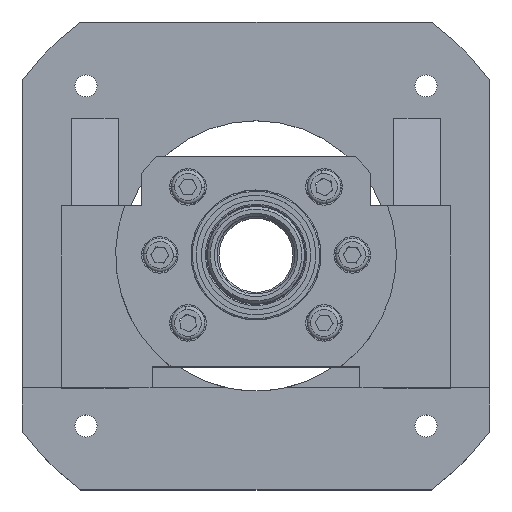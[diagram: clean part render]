
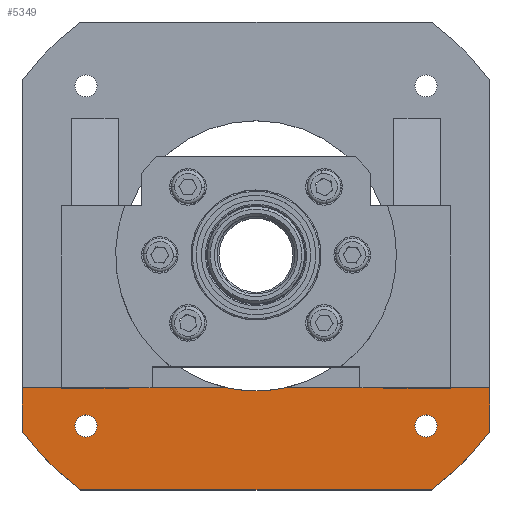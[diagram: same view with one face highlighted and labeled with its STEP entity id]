
A CAD part, top view. The second image highlights one B-rep face of the part: STEP entity #5349.
In plain terms, the highlighted planar face has unit normal (0, 0, 1).
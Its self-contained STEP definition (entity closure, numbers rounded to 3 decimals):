
#10 = VERTEX_POINT ( 'NONE', #6529 ) ;
#27 = CARTESIAN_POINT ( 'NONE',  ( 69.657, -65.407, 21. ) ) ;
#140 = DIRECTION ( 'NONE',  ( 1., 0., 0. ) ) ;
#318 = LINE ( 'NONE', #644, #7181 ) ;
#518 = CARTESIAN_POINT ( 'NONE',  ( -67.5, -90., 21. ) ) ;
#596 = VECTOR ( 'NONE', #10011, 1000. ) ;
#619 = DIRECTION ( 'NONE',  ( 1., 0., 0. ) ) ;
#644 = CARTESIAN_POINT ( 'NONE',  ( -90., -90., 21. ) ) ;
#651 = EDGE_LOOP ( 'NONE', ( #6058, #7548 ) ) ;
#658 = CARTESIAN_POINT ( 'NONE',  ( -90., -50.7, 21. ) ) ;
#719 = CARTESIAN_POINT ( 'NONE',  ( 0., 0., 21. ) ) ;
#750 = CIRCLE ( 'NONE', #5453, 4.25 ) ;
#758 = CARTESIAN_POINT ( 'NONE',  ( -90., -67.5, 21. ) ) ;
#976 = CARTESIAN_POINT ( 'NONE',  ( 67.5, -90., 21. ) ) ;
#1048 = DIRECTION ( 'NONE',  ( 1., 0., 0. ) ) ;
#1173 = EDGE_CURVE ( 'NONE', #6972, #3836, #3368, .T. ) ;
#1268 = AXIS2_PLACEMENT_3D ( 'NONE', #10055, #4809, #10903 ) ;
#1320 = DIRECTION ( 'NONE',  ( 0., 0., 1. ) ) ;
#1400 = ORIENTED_EDGE ( 'NONE', *, *, #3224, .F. ) ;
#1405 = CARTESIAN_POINT ( 'NONE',  ( 65.407, -65.407, 21. ) ) ;
#1602 = AXIS2_PLACEMENT_3D ( 'NONE', #10567, #10553, #10539 ) ;
#1717 = VERTEX_POINT ( 'NONE', #4588 ) ;
#1894 = DIRECTION ( 'NONE',  ( 0., 0., 1. ) ) ;
#1953 = DIRECTION ( 'NONE',  ( 1., 0., 0. ) ) ;
#1968 = DIRECTION ( 'NONE',  ( 0., 0., 1. ) ) ;
#1984 = CARTESIAN_POINT ( 'NONE',  ( 0., 0., 21. ) ) ;
#2166 = EDGE_CURVE ( 'NONE', #10, #3836, #8308, .T. ) ;
#2242 = ORIENTED_EDGE ( 'NONE', *, *, #2166, .T. ) ;
#2258 = VERTEX_POINT ( 'NONE', #6538 ) ;
#2458 = EDGE_CURVE ( 'NONE', #8785, #10, #10612, .T. ) ;
#2547 = EDGE_CURVE ( 'NONE', #8255, #8785, #318, .T. ) ;
#2702 = EDGE_LOOP ( 'NONE', ( #5362, #4793, #10652, #5499, #2242, #8496, #5639, #9453 ) ) ;
#2782 = EDGE_CURVE ( 'NONE', #1717, #8716, #750, .T. ) ;
#2939 = EDGE_CURVE ( 'NONE', #10380, #8255, #4169, .T. ) ;
#3013 = VERTEX_POINT ( 'NONE', #27 ) ;
#3019 = EDGE_CURVE ( 'NONE', #10952, #10380, #3037, .T. ) ;
#3037 = LINE ( 'NONE', #11359, #596 ) ;
#3224 = EDGE_CURVE ( 'NONE', #8716, #1717, #10442, .T. ) ;
#3368 = LINE ( 'NONE', #5617, #8061 ) ;
#3393 = EDGE_CURVE ( 'NONE', #3013, #5010, #8550, .T. ) ;
#3447 = EDGE_CURVE ( 'NONE', #10952, #2258, #7997, .T. ) ;
#3594 = VECTOR ( 'NONE', #9995, 1000. ) ;
#3612 = CARTESIAN_POINT ( 'NONE',  ( -61.157, -65.407, 21. ) ) ;
#3836 = VERTEX_POINT ( 'NONE', #4176 ) ;
#4169 = CIRCLE ( 'NONE', #10188, 112.5 ) ;
#4176 = CARTESIAN_POINT ( 'NONE',  ( 90., -50.7, 21. ) ) ;
#4318 = DIRECTION ( 'NONE',  ( 1., 0., 0. ) ) ;
#4376 = DIRECTION ( 'NONE',  ( 0., 0., 1. ) ) ;
#4391 = ORIENTED_EDGE ( 'NONE', *, *, #2782, .F. ) ;
#4412 = EDGE_CURVE ( 'NONE', #5010, #3013, #9227, .T. ) ;
#4466 = CARTESIAN_POINT ( 'NONE',  ( -65.407, -65.407, 21. ) ) ;
#4588 = CARTESIAN_POINT ( 'NONE',  ( -69.657, -65.407, 21. ) ) ;
#4793 = ORIENTED_EDGE ( 'NONE', *, *, #2939, .T. ) ;
#4809 = DIRECTION ( 'NONE',  ( 0., 0., -1. ) ) ;
#4835 = AXIS2_PLACEMENT_3D ( 'NONE', #1984, #1968, #1953 ) ;
#4861 = DIRECTION ( 'NONE',  ( 0., 0., 1. ) ) ;
#5010 = VERTEX_POINT ( 'NONE', #5357 ) ;
#5232 = CARTESIAN_POINT ( 'NONE',  ( 11.555, -50.7, 21. ) ) ;
#5349 = ADVANCED_FACE ( 'NONE', ( #6876, #9205, #7703 ), #8354, .T. ) ;
#5357 = CARTESIAN_POINT ( 'NONE',  ( 61.157, -65.407, 21. ) ) ;
#5362 = ORIENTED_EDGE ( 'NONE', *, *, #3019, .T. ) ;
#5453 = AXIS2_PLACEMENT_3D ( 'NONE', #8081, #1894, #10691 ) ;
#5499 = ORIENTED_EDGE ( 'NONE', *, *, #2458, .T. ) ;
#5532 = DIRECTION ( 'NONE',  ( 1., 0., 0. ) ) ;
#5617 = CARTESIAN_POINT ( 'NONE',  ( -104.626, -50.7, 21. ) ) ;
#5639 = ORIENTED_EDGE ( 'NONE', *, *, #6662, .T. ) ;
#5909 = AXIS2_PLACEMENT_3D ( 'NONE', #4466, #4376, #4318 ) ;
#5998 = VECTOR ( 'NONE', #8492, 1000. ) ;
#6058 = ORIENTED_EDGE ( 'NONE', *, *, #4412, .F. ) ;
#6529 = CARTESIAN_POINT ( 'NONE',  ( 90., -67.5, 21. ) ) ;
#6538 = CARTESIAN_POINT ( 'NONE',  ( -11.555, -50.7, 21. ) ) ;
#6607 = CARTESIAN_POINT ( 'NONE',  ( -104.626, -111., 21. ) ) ;
#6662 = EDGE_CURVE ( 'NONE', #6972, #2258, #7794, .T. ) ;
#6876 = FACE_BOUND ( 'NONE', #651, .T. ) ;
#6972 = VERTEX_POINT ( 'NONE', #5232 ) ;
#7181 = VECTOR ( 'NONE', #619, 1000. ) ;
#7307 = DIRECTION ( 'NONE',  ( 0., 0., 1. ) ) ;
#7548 = ORIENTED_EDGE ( 'NONE', *, *, #3393, .F. ) ;
#7703 = FACE_OUTER_BOUND ( 'NONE', #2702, .T. ) ;
#7794 = CIRCLE ( 'NONE', #1268, 52. ) ;
#7939 = EDGE_LOOP ( 'NONE', ( #4391, #1400 ) ) ;
#7997 = LINE ( 'NONE', #10039, #3594 ) ;
#8061 = VECTOR ( 'NONE', #5532, 1000. ) ;
#8081 = CARTESIAN_POINT ( 'NONE',  ( -65.407, -65.407, 21. ) ) ;
#8255 = VERTEX_POINT ( 'NONE', #518 ) ;
#8308 = LINE ( 'NONE', #8603, #5998 ) ;
#8354 = PLANE ( 'NONE',  #10392 ) ;
#8492 = DIRECTION ( 'NONE',  ( 0., 1., 0. ) ) ;
#8496 = ORIENTED_EDGE ( 'NONE', *, *, #1173, .F. ) ;
#8550 = CIRCLE ( 'NONE', #1602, 4.25 ) ;
#8603 = CARTESIAN_POINT ( 'NONE',  ( 90., 90., 21. ) ) ;
#8716 = VERTEX_POINT ( 'NONE', #3612 ) ;
#8785 = VERTEX_POINT ( 'NONE', #976 ) ;
#9205 = FACE_BOUND ( 'NONE', #7939, .T. ) ;
#9227 = CIRCLE ( 'NONE', #9236, 4.25 ) ;
#9236 = AXIS2_PLACEMENT_3D ( 'NONE', #1405, #1320, #1048 ) ;
#9453 = ORIENTED_EDGE ( 'NONE', *, *, #3447, .F. ) ;
#9995 = DIRECTION ( 'NONE',  ( 1., 0., 0. ) ) ;
#10011 = DIRECTION ( 'NONE',  ( 0., -1., 0. ) ) ;
#10039 = CARTESIAN_POINT ( 'NONE',  ( -104.626, -50.7, 21. ) ) ;
#10055 = CARTESIAN_POINT ( 'NONE',  ( 0., 0., 21. ) ) ;
#10188 = AXIS2_PLACEMENT_3D ( 'NONE', #719, #7307, #140 ) ;
#10380 = VERTEX_POINT ( 'NONE', #758 ) ;
#10392 = AXIS2_PLACEMENT_3D ( 'NONE', #6607, #4861, #10953 ) ;
#10442 = CIRCLE ( 'NONE', #5909, 4.25 ) ;
#10539 = DIRECTION ( 'NONE',  ( 1., 0., 0. ) ) ;
#10553 = DIRECTION ( 'NONE',  ( 0., 0., 1. ) ) ;
#10567 = CARTESIAN_POINT ( 'NONE',  ( 65.407, -65.407, 21. ) ) ;
#10612 = CIRCLE ( 'NONE', #4835, 112.5 ) ;
#10652 = ORIENTED_EDGE ( 'NONE', *, *, #2547, .T. ) ;
#10691 = DIRECTION ( 'NONE',  ( 1., 0., 0. ) ) ;
#10903 = DIRECTION ( 'NONE',  ( 1., 0., 0. ) ) ;
#10952 = VERTEX_POINT ( 'NONE', #658 ) ;
#10953 = DIRECTION ( 'NONE',  ( 1., 0., 0. ) ) ;
#11359 = CARTESIAN_POINT ( 'NONE',  ( -90., 90., 21. ) ) ;
